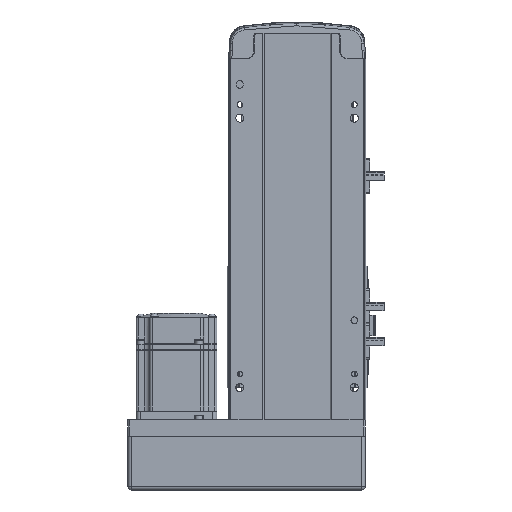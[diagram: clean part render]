
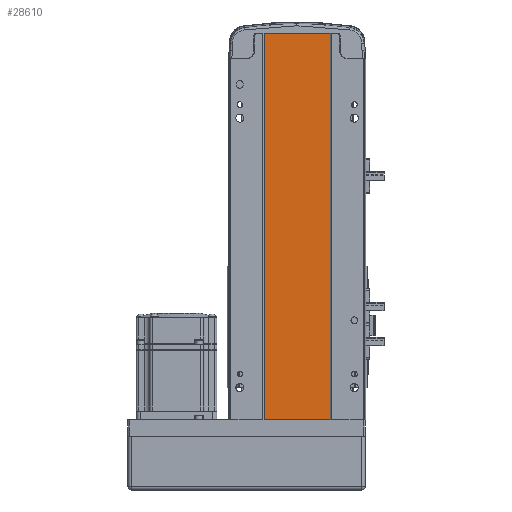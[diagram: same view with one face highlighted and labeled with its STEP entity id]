
A CAD part, front view. The second image highlights one B-rep face of the part: STEP entity #28610.
In plain terms, the highlighted planar face has unit normal (0, -1, 0).
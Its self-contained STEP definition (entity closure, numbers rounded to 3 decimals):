
#237 = EDGE_CURVE ( 'NONE', #30996, #49713, #36602, .T. ) ;
#436 = ORIENTED_EDGE ( 'NONE', *, *, #18886, .F. ) ;
#708 = AXIS2_PLACEMENT_3D ( 'NONE', #13526, #9467, #44567 ) ;
#891 = VECTOR ( 'NONE', #23478, 1000. ) ;
#1114 = LINE ( 'NONE', #54242, #46169 ) ;
#1798 = LINE ( 'NONE', #48862, #31640 ) ;
#5736 = ORIENTED_EDGE ( 'NONE', *, *, #237, .F. ) ;
#6543 = FACE_OUTER_BOUND ( 'NONE', #26368, .T. ) ;
#6721 = VECTOR ( 'NONE', #21190, 1000. ) ;
#8194 = CARTESIAN_POINT ( 'NONE',  ( 24.5, 2., 287. ) ) ;
#9245 = CARTESIAN_POINT ( 'NONE',  ( 24.5, 2., 287. ) ) ;
#9467 = DIRECTION ( 'NONE',  ( 0., 1., 0. ) ) ;
#12419 = EDGE_CURVE ( 'NONE', #22951, #36383, #1798, .T. ) ;
#13526 = CARTESIAN_POINT ( 'NONE',  ( 0., 2., 287. ) ) ;
#14674 = CARTESIAN_POINT ( 'NONE',  ( 24.5, 2., 0. ) ) ;
#15924 = EDGE_CURVE ( 'NONE', #36383, #49713, #36953, .T. ) ;
#17296 = CARTESIAN_POINT ( 'NONE',  ( -24.5, 2., 0. ) ) ;
#18886 = EDGE_CURVE ( 'NONE', #22951, #30996, #1114, .T. ) ;
#21190 = DIRECTION ( 'NONE',  ( 0., 0., -1. ) ) ;
#22101 = ORIENTED_EDGE ( 'NONE', *, *, #12419, .T. ) ;
#22951 = VERTEX_POINT ( 'NONE', #41639 ) ;
#23478 = DIRECTION ( 'NONE',  ( 1., 0., 0. ) ) ;
#25752 = DIRECTION ( 'NONE',  ( 0., 0., -1. ) ) ;
#26368 = EDGE_LOOP ( 'NONE', ( #51572, #5736, #436, #22101 ) ) ;
#28610 = ADVANCED_FACE ( 'NONE', ( #6543 ), #35642, .F. ) ;
#30996 = VERTEX_POINT ( 'NONE', #9245 ) ;
#31640 = VECTOR ( 'NONE', #25752, 1000. ) ;
#35642 = PLANE ( 'NONE',  #708 ) ;
#36330 = CARTESIAN_POINT ( 'NONE',  ( 0., 2., 0. ) ) ;
#36383 = VERTEX_POINT ( 'NONE', #17296 ) ;
#36602 = LINE ( 'NONE', #8194, #6721 ) ;
#36953 = LINE ( 'NONE', #36330, #891 ) ;
#41639 = CARTESIAN_POINT ( 'NONE',  ( -24.5, 2., 287. ) ) ;
#44567 = DIRECTION ( 'NONE',  ( 0., 0., 1. ) ) ;
#46169 = VECTOR ( 'NONE', #54052, 1000. ) ;
#48862 = CARTESIAN_POINT ( 'NONE',  ( -24.5, 2., 287. ) ) ;
#49713 = VERTEX_POINT ( 'NONE', #14674 ) ;
#51572 = ORIENTED_EDGE ( 'NONE', *, *, #15924, .T. ) ;
#54052 = DIRECTION ( 'NONE',  ( 1., 0., 0. ) ) ;
#54242 = CARTESIAN_POINT ( 'NONE',  ( -24.5, 2., 287. ) ) ;
